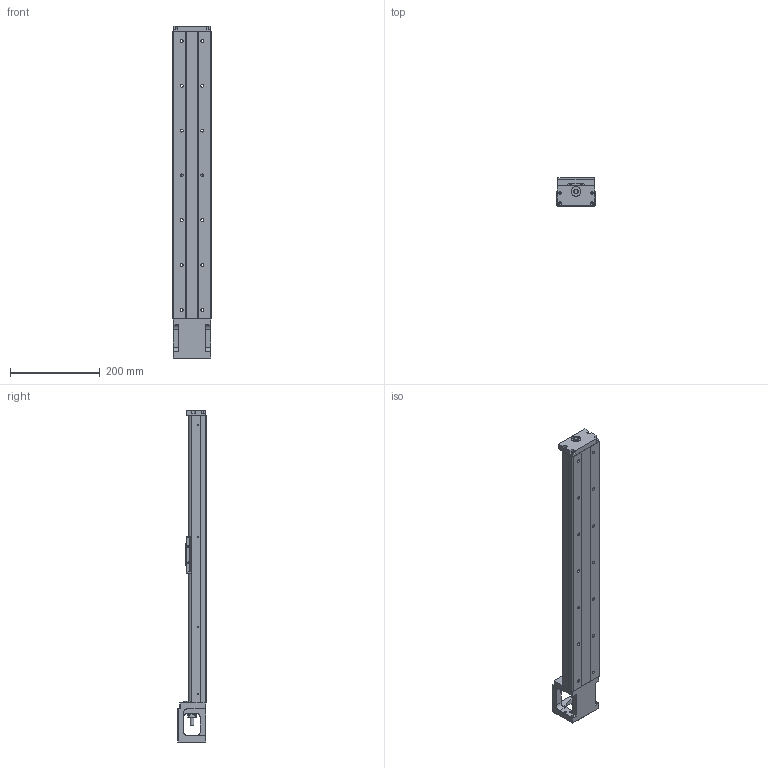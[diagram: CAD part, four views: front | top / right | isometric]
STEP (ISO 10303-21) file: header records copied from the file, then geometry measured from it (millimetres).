
FILE_DESCRIPTION(/* description */ (''),/* implementation_level */ '2;1');
FILE_NAME(/* name */ '46S-640low.stp',/* time_stamp */ '2018-02-12T11:43:27+08:00',/* author */ (''),/* organization */ (''),/* preprocessor_version */ 'ST-DEVELOPER v11',/* originating_system */ 'SIEMENS UGS NX 6.0',/* authorisation */ '');
FILE_SCHEMA (('AUTOMOTIVE_DESIGN { 1 0 10303 214 1 1 1 1 }'));
Length unit declared in the file: millimetre
Products named in the file (1): 3.069
Bounding box: 86 x 64 x 740 mm (x, y, z)
Volume: 1446064.9 mm3; surface area: 322587.5 mm2
Topology: 5 solids, 16 shells, 640 faces, 1691 edges, 1114 vertices
Faces by surface type: plane 286, cylinder 234, cone 59, bspline 53, torus 8
Full cylindrical faces by diameter (mm): 2 x2, 2.11 x2, 2.15 x8, 2.42 x6, 3 x4, 3.2 x4, 3.3 x6, 3.4 x8, 4 x2, 4.2 x4, 4.5 x8, 5 x6, 6 x8, 6.35 x2, 6.6 x14, 6.7 x2, 8 x1, 8.7 x4, 9.6 x1, 10 x3, 11 x14, 12 x1, 14.95 x2, 15 x1, 16 x2, 22 x3, 27.5 x1, 44 x1, 50 x1
Entity records: 32075 total; most frequent: CARTESIAN_POINT 13142, ORIENTED_EDGE 2892, DIRECTION 2750, EDGE_CURVE 1446, VERTEX_POINT 1041, AXIS2_PLACEMENT_3D 1036, EDGE_LOOP 907, LINE 678
